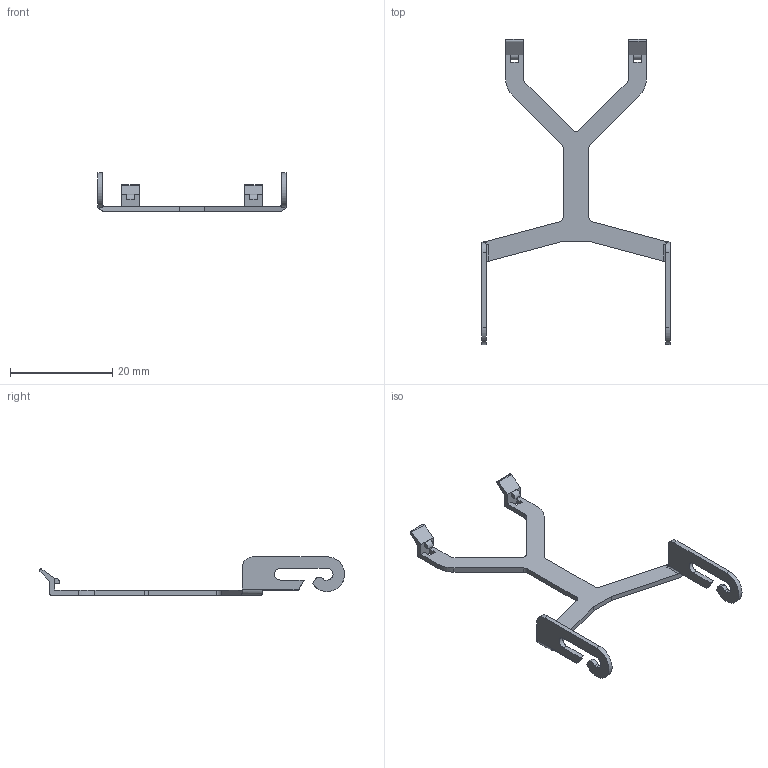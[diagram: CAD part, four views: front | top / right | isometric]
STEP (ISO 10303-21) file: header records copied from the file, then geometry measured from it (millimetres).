
FILE_DESCRIPTION (( 'STEP AP214' ), '1' );
FILE_NAME ('Clip_S30-CM.STEP', '2019-11-27T07:20:18', ( '' ), ( '' ), 'SwSTEP 2.0', 'SolidWorks 2016', '' );
FILE_SCHEMA (( 'AUTOMOTIVE_DESIGN' ));
Length unit declared in the file: millimetre
Products named in the file (1): Clip_S30-CM
Bounding box: 36.9 x 59.8 x 7.5 mm (x, y, z)
Volume: 579.9 mm3; surface area: 1554.7 mm2
Topology: 1 solids, 1 shells, 94 faces, 274 edges, 182 vertices
Faces by surface type: plane 59, cylinder 35
Entity records: 3144 total; most frequent: CARTESIAN_POINT 593, ORIENTED_EDGE 548, DIRECTION 510, EDGE_CURVE 274, VECTOR 200, LINE 200, VERTEX_POINT 182, AXIS2_PLACEMENT_3D 155
